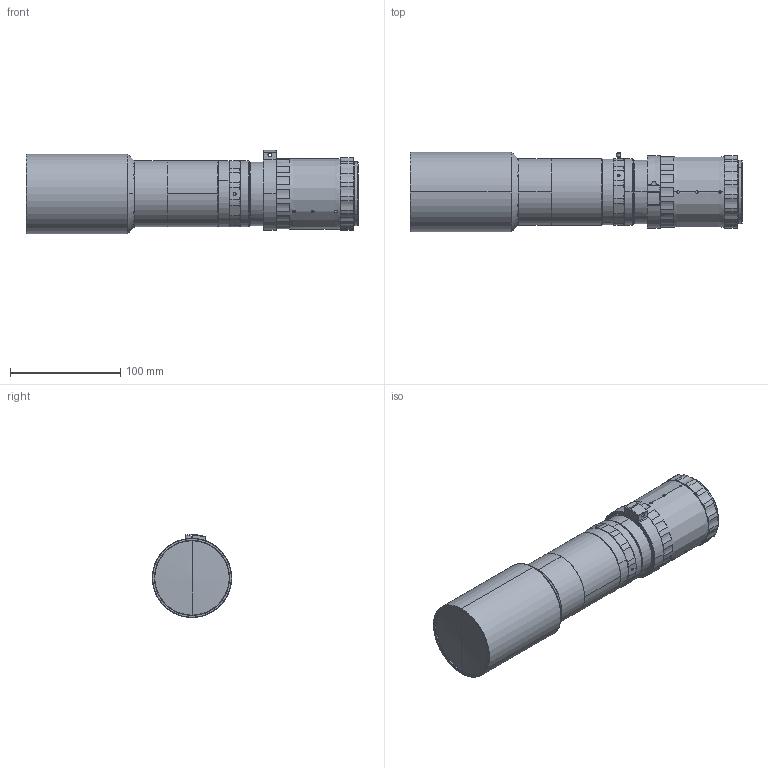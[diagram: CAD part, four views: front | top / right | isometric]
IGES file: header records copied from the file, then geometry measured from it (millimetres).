
Start section: SolidWorks IGES file using analytic representation for surfaces
Global section: file name: D:\BaiduSyncdisk\1-产品  2022-new\DTCA（2021.1.7.整体考过来）\--35F大倍率--\1X-DTCA35F-44-G-M58-AL 非同轴\3D 可变换\DTCA35F-44-G-M58-AL.IGS; native system: SolidWorks 2017; preprocessor: SolidWorks 2017; author: Coolens; date: 230302.220524; units: millimetre
Bounding box: 301.3 x 72 x 75.49 mm (x, y, z)
Surface area: 80831.7 mm2 (no closed solid volume)
Topology: 0 solids, 0 shells, 445 faces, 6138 edges, 6134 vertices
Faces by surface type: revolution 348, bspline 97
